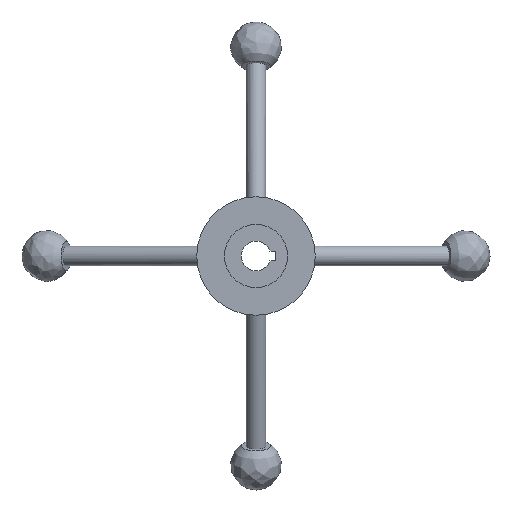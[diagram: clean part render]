
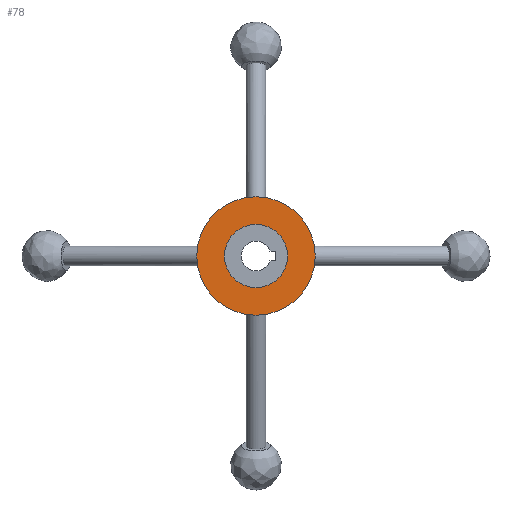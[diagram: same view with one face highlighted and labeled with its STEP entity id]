
A CAD part, front view. The second image highlights one B-rep face of the part: STEP entity #78.
In plain terms, the highlighted planar face has unit normal (0, -1, 0).
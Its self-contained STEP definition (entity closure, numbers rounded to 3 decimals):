
#78 = ADVANCED_FACE( '', ( #107, #108 ), #109, .F. );
#107 = FACE_BOUND( '', #173, .T. );
#108 = FACE_OUTER_BOUND( '', #174, .T. );
#109 = PLANE( '', #175 );
#173 = EDGE_LOOP( '', ( #384 ) );
#174 = EDGE_LOOP( '', ( #385 ) );
#175 = AXIS2_PLACEMENT_3D( '', #386, #387, #388 );
#384 = ORIENTED_EDGE( '', *, *, #489, .F. );
#385 = ORIENTED_EDGE( '', *, *, #490, .T. );
#386 = CARTESIAN_POINT( '', ( 30., 11., 0. ) );
#387 = DIRECTION( '', ( 0., 1., 0. ) );
#388 = DIRECTION( '', ( 0., 0., 1. ) );
#489 = EDGE_CURVE( '', #529, #529, #530, .T. );
#490 = EDGE_CURVE( '', #531, #531, #532, .T. );
#529 = VERTEX_POINT( '', #659 );
#530 = CIRCLE( '', #660, 16. );
#531 = VERTEX_POINT( '', #661 );
#532 = CIRCLE( '', #662, 30. );
#659 = CARTESIAN_POINT( '', ( 0., 11., -16. ) );
#660 = AXIS2_PLACEMENT_3D( '', #933, #934, #935 );
#661 = CARTESIAN_POINT( '', ( 0., 11., -30. ) );
#662 = AXIS2_PLACEMENT_3D( '', #936, #937, #938 );
#933 = CARTESIAN_POINT( '', ( 0., 11., 0. ) );
#934 = DIRECTION( '', ( 0., -1., 0. ) );
#935 = DIRECTION( '', ( 0., 0., -1. ) );
#936 = CARTESIAN_POINT( '', ( 0., 11., 0. ) );
#937 = DIRECTION( '', ( 0., -1., 0. ) );
#938 = DIRECTION( '', ( 0., 0., -1. ) );
